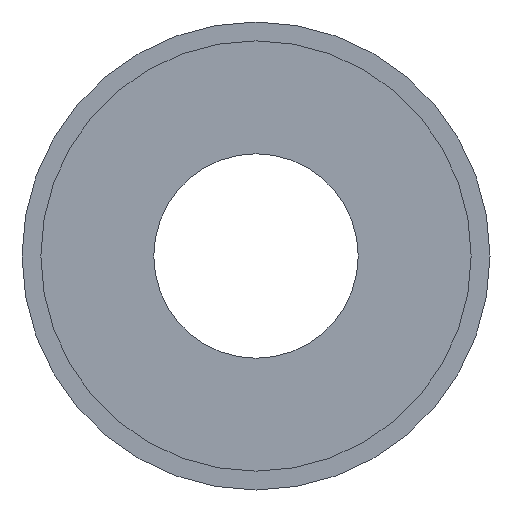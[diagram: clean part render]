
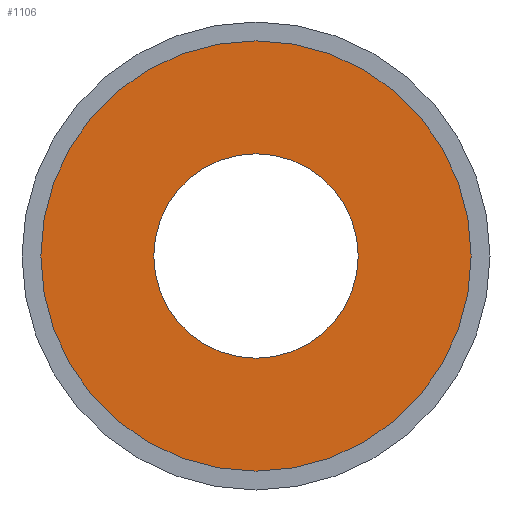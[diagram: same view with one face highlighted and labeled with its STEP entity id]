
A CAD part, front view. The second image highlights one B-rep face of the part: STEP entity #1106.
In plain terms, the highlighted planar face has unit normal (0, -1, 0).
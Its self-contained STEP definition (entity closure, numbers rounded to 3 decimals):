
#191 = VERTEX_POINT ( 'NONE', #1722 ) ;
#253 = DIRECTION ( 'NONE',  ( 0., -1., 0. ) ) ;
#338 = AXIS2_PLACEMENT_3D ( 'NONE', #2820, #253, #2811 ) ;
#386 = FACE_OUTER_BOUND ( 'NONE', #3285, .T. ) ;
#419 = VERTEX_POINT ( 'NONE', #3217 ) ;
#495 = DIRECTION ( 'NONE',  ( 0., 0., 1. ) ) ;
#704 = DIRECTION ( 'NONE',  ( 0., -1., 0. ) ) ;
#962 = VERTEX_POINT ( 'NONE', #2979 ) ;
#993 = VERTEX_POINT ( 'NONE', #2502 ) ;
#1048 = AXIS2_PLACEMENT_3D ( 'NONE', #1879, #1341, #3143 ) ;
#1106 = ADVANCED_FACE ( 'NONE', ( #1253, #386 ), #2580, .F. ) ;
#1159 = CARTESIAN_POINT ( 'NONE',  ( 0., -16.5, 0. ) ) ;
#1240 = AXIS2_PLACEMENT_3D ( 'NONE', #2067, #2031, #495 ) ;
#1241 = ORIENTED_EDGE ( 'NONE', *, *, #1640, .F. ) ;
#1253 = FACE_BOUND ( 'NONE', #2426, .T. ) ;
#1341 = DIRECTION ( 'NONE',  ( 0., -1., 0. ) ) ;
#1386 = ORIENTED_EDGE ( 'NONE', *, *, #3067, .T. ) ;
#1462 = CIRCLE ( 'NONE', #1048, 19. ) ;
#1471 = DIRECTION ( 'NONE',  ( 0., -1., 0. ) ) ;
#1484 = DIRECTION ( 'NONE',  ( 0., 0., -1. ) ) ;
#1626 = EDGE_CURVE ( 'NONE', #962, #419, #2091, .T. ) ;
#1640 = EDGE_CURVE ( 'NONE', #191, #993, #1935, .T. ) ;
#1722 = CARTESIAN_POINT ( 'NONE',  ( 0., -16.5, 19. ) ) ;
#1879 = CARTESIAN_POINT ( 'NONE',  ( 0., -16.5, 0. ) ) ;
#1883 = ORIENTED_EDGE ( 'NONE', *, *, #1626, .T. ) ;
#1935 = CIRCLE ( 'NONE', #338, 19. ) ;
#2031 = DIRECTION ( 'NONE',  ( 0., 1., 0. ) ) ;
#2067 = CARTESIAN_POINT ( 'NONE',  ( 0., -16.5, 19. ) ) ;
#2091 = CIRCLE ( 'NONE', #2353, 40. ) ;
#2211 = DIRECTION ( 'NONE',  ( 0., 0., -1. ) ) ;
#2353 = AXIS2_PLACEMENT_3D ( 'NONE', #2506, #1471, #1484 ) ;
#2426 = EDGE_LOOP ( 'NONE', ( #3269, #1241 ) ) ;
#2502 = CARTESIAN_POINT ( 'NONE',  ( 0., -16.5, -19. ) ) ;
#2506 = CARTESIAN_POINT ( 'NONE',  ( 0., -16.5, 0. ) ) ;
#2580 = PLANE ( 'NONE',  #1240 ) ;
#2721 = AXIS2_PLACEMENT_3D ( 'NONE', #1159, #704, #2211 ) ;
#2755 = EDGE_CURVE ( 'NONE', #993, #191, #1462, .T. ) ;
#2811 = DIRECTION ( 'NONE',  ( 0., 0., -1. ) ) ;
#2820 = CARTESIAN_POINT ( 'NONE',  ( 0., -16.5, 0. ) ) ;
#2979 = CARTESIAN_POINT ( 'NONE',  ( 0., -16.5, 40. ) ) ;
#2980 = CIRCLE ( 'NONE', #2721, 40. ) ;
#3067 = EDGE_CURVE ( 'NONE', #419, #962, #2980, .T. ) ;
#3143 = DIRECTION ( 'NONE',  ( 0., 0., -1. ) ) ;
#3217 = CARTESIAN_POINT ( 'NONE',  ( 0., -16.5, -40. ) ) ;
#3269 = ORIENTED_EDGE ( 'NONE', *, *, #2755, .F. ) ;
#3285 = EDGE_LOOP ( 'NONE', ( #1386, #1883 ) ) ;
